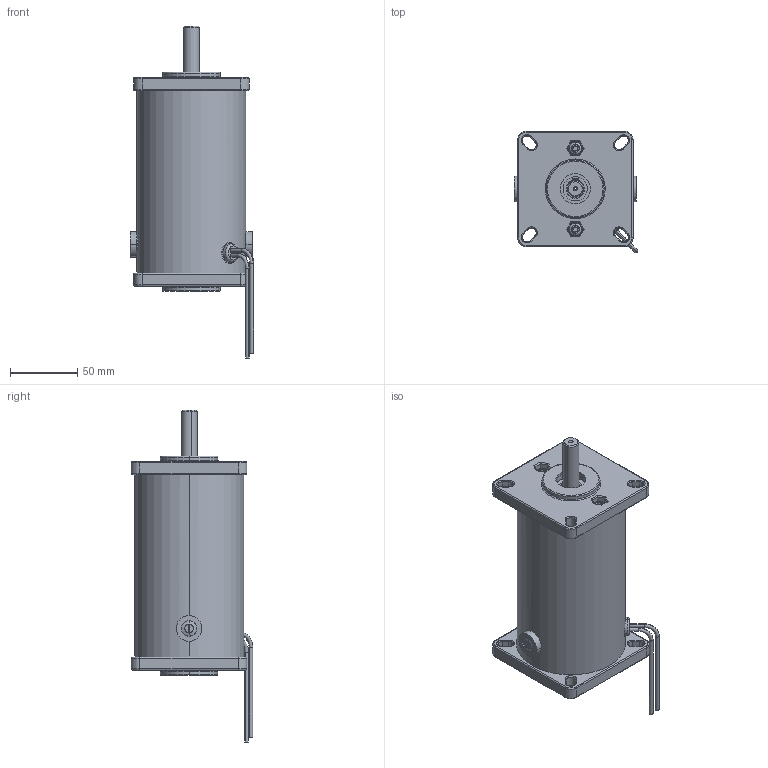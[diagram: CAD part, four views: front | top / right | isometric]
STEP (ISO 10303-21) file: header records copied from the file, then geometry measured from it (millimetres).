
FILE_DESCRIPTION (( 'STEP AP203' ), '1' );
FILE_NAME ('OUTLINE PM8014HV.STEP', '2006-08-04T13:44:04', ( 'Eng-KVV2' ), ( 'Groschopp' ), 'SwSTEP 2.0', 'SolidWorks 2006004', '' );
FILE_SCHEMA (( 'CONFIG_CONTROL_DESIGN' ));
Length unit declared in the file: inch
Products named in the file (1): OUTLINE PM8014HV
Bounding box: 91.54 x 90.09 x 246.54 mm (x, y, z)
Surface area: 74318.8 mm2 (no closed solid volume)
Topology: 0 solids, 28 shells, 394 faces, 1006 edges, 641 vertices
Faces by surface type: cylinder 202, plane 91, torus 84, cone 17
Entity records: 12446 total; most frequent: CARTESIAN_POINT 2535, DIRECTION 2318, ORIENTED_EDGE 1823, EDGE_CURVE 1006, AXIS2_PLACEMENT_3D 955, VERTEX_POINT 641, CIRCLE 560, EDGE_LOOP 440
